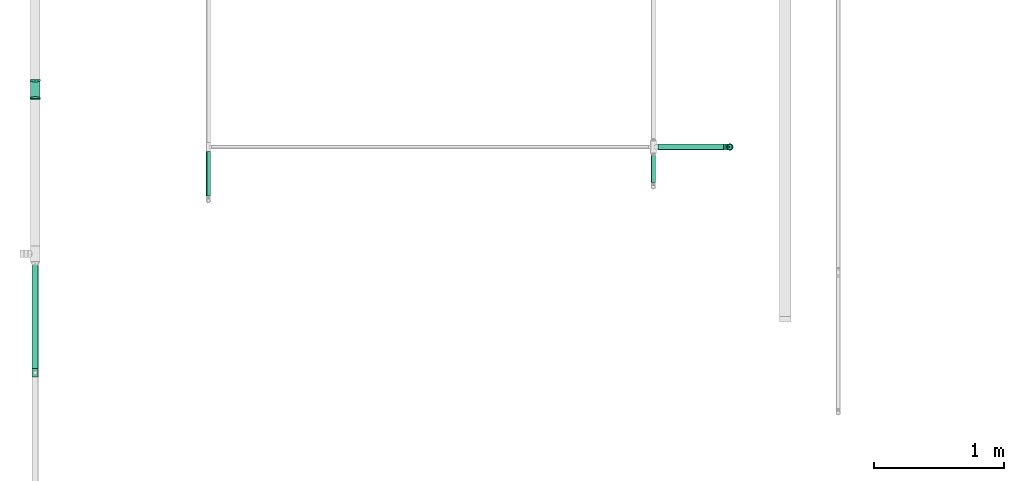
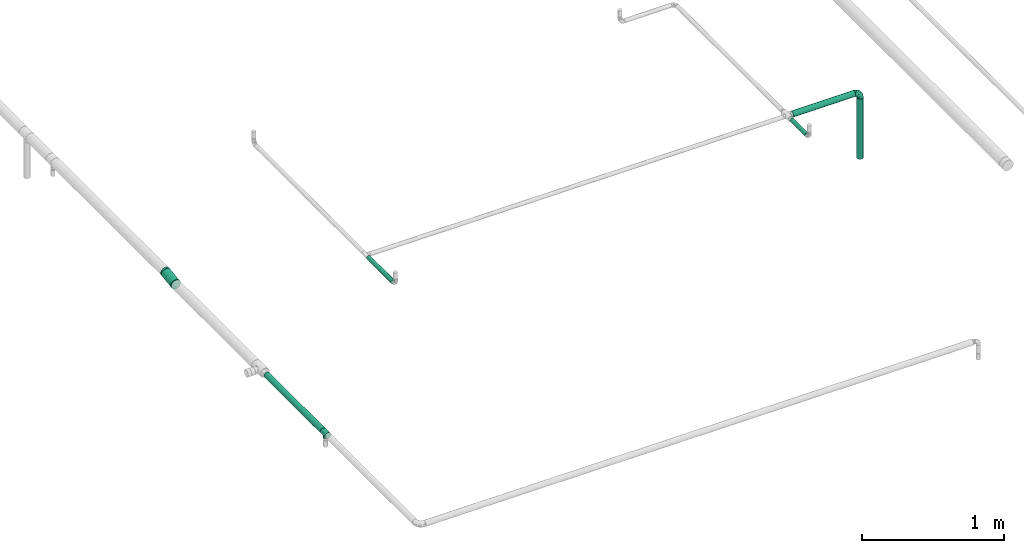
# One storey, part 2 of 32: 6 flow segments, 4 flow fittings.
"""IFC2X3 building model written with IfcOpenShell, lengths in millimetres."""

from ifc_helpers import new_model, entity, si_unit, converted_unit, derived_unit, direction, frame, origin_with_axes, origin_2d_with_axis, place, context, subcontext, project, spatial, hollow_circle, extrude, open_shell, surface_model, source, transform, mapped, type_object, element, save


model = new_model("IFC2X3")

# Units and contexts
model_context = context("Model", 3, precision=0.01, world=frame((0.0, 4.29681676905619e-09, 0.0)), true_north=direction((4.01073788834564e-13, 1.0)))
plan_context = context("Plan", 3, precision=0.01, world=frame((0.0, 4.29681676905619e-09, 0.0)), true_north=direction((4.01073788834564e-13, 1.0)))
body_context = subcontext(model_context, "Body", "Model", "MODEL_VIEW")
ifc_project = project(units=[converted_unit("PLANEANGLEUNIT", "DEGREE", entity("IfcPositiveLengthMeasure", 0.0174532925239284), si_unit("PLANEANGLEUNIT", "RADIAN"), dimensions=[0, 0, 0, 0, 0, 0, 0]), si_unit("AREAUNIT", "SQUARE_METRE"), si_unit("LENGTHUNIT", "METRE", prefix="MILLI"), si_unit("MASSUNIT", "GRAM", prefix="KILO"), si_unit("POWERUNIT", "WATT"), si_unit("PRESSUREUNIT", "PASCAL", prefix="KILO"), si_unit("FORCEUNIT", "NEWTON", prefix="KILO"), si_unit("ELECTRICVOLTAGEUNIT", "VOLT"), si_unit("ELECTRICCURRENTUNIT", "AMPERE"), si_unit("THERMODYNAMICTEMPERATUREUNIT", "DEGREE_CELSIUS"), si_unit("TIMEUNIT", "SECOND"), si_unit("VOLUMEUNIT", "CUBIC_METRE"), derived_unit("LINEARVELOCITYUNIT", [(si_unit("LENGTHUNIT", "METRE"), 1), (si_unit("TIMEUNIT", "SECOND"), -1)]), derived_unit("VOLUMETRICFLOWRATEUNIT", [(si_unit("VOLUMEUNIT", "CUBIC_METRE"), 1), (si_unit("TIMEUNIT", "SECOND"), -1)]), derived_unit("THERMALTRANSMITTANCEUNIT", [(si_unit("POWERUNIT", "WATT"), 1), (si_unit("THERMODYNAMICTEMPERATUREUNIT", "KELVIN"), -1), (si_unit("AREAUNIT", "SQUARE_METRE"), -1)]), derived_unit("SOUNDPRESSUREUNIT", [(si_unit("PRESSUREUNIT", "PASCAL"), 1)])], contexts=[model_context, plan_context])

# Site, building, storey
site_placement = place(None, frame((0.0, -4.29681676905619e-09, 0.0), z_axis=(0.0, 0.0, 1.0), x_axis=(1.0, 0.0, 0.0)))
site = spatial("IfcSite", under=ifc_project, at=site_placement, CompositionType="ELEMENT")
building_placement = place(site_placement, frame((0.0, 4.29681676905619e-09, 0.0), z_axis=(0.0, 0.0, 1.0), x_axis=(1.0, 0.0, 0.0)))
building = spatial("IfcBuilding", under=site, at=building_placement, Name="mc-building", CompositionType="ELEMENT")
storey_placement = place(building_placement, frame((0.0, 0.0, 205200.0), z_axis=(0.0, 0.0, 1.0), x_axis=(1.0, 0.0, 0.0)))
storey = spatial("IfcBuildingStorey", under=building, at=storey_placement, Name="Nivå D + 1,2 m", CompositionType="ELEMENT", Elevation=205200.0)

# Flow fittings
pipe_fitting_type_1 = type_object("IfcPipeFittingType", Name="magi_pipe_fe_tee_centric_90_001", PredefinedType="JUNCTION")
shared_shape_1 = source(origin_with_axes(), body_context, "Body", "SurfaceModel", [
    surface_model("IfcShellBasedSurfaceModel", [(-33.8, 0.0, -24.2), (-33.8, -6.26342, -23.37541), (-33.8, 6.26342, -23.37541), (-33.8, 12.1, -20.95781), (-33.8, 17.11198, -17.11198), (-33.8, 20.95781, -12.1), (-33.8, -23.37541, -6.26342), (-33.8, 23.37541, -6.26342), (-33.8, -17.11198, -17.11198), (-33.8, -20.95781, -12.1), (-33.8, -12.1, -20.95781), (-33.8, -24.2, 0.0), (-33.8, -23.37541, 6.26342), (-33.8, 20.95781, 12.1), (-33.8, 23.37541, 6.26342), (-33.8, 24.2, 0.0), (-33.8, 12.1, 20.95781), (-33.8, 17.11198, 17.11198), (-33.8, -17.11198, 17.11198), (-33.8, 6.26342, 23.37541), (-33.8, -20.95781, 12.1), (-33.8, -12.1, 20.95781), (-33.8, -6.26342, 23.37541), (-33.8, 0.0, 24.2), (33.8, 6.26342, -23.37541), (33.8, -6.26342, -23.37541), (33.8, 0.0, -24.2), (33.8, 17.11198, -17.11198), (33.8, 12.1, -20.95781), (33.8, -23.37541, -6.26342), (33.8, 20.95781, -12.1), (33.8, 23.37541, -6.26342), (33.8, -17.11198, -17.11198), (33.8, -12.1, -20.95781), (33.8, -20.95781, -12.1), (33.8, -24.2, 0.0), (33.8, 24.2, 0.0), (33.8, 23.37541, 6.26342), (33.8, 20.95781, 12.1), (33.8, -23.37541, 6.26342), (33.8, -17.11198, 17.11198), (33.8, 12.1, 20.95781), (33.8, 17.11198, 17.11198), (33.8, 6.26342, 23.37541), (33.8, -20.95781, 12.1), (33.8, -12.1, 20.95781), (33.8, 0.0, 24.2), (33.8, -6.26342, 23.37541), (15.81824, -23.45734, 5.94922), (16.9, -24.2, 0.0), (12.87025, -21.57947, 10.95293), (33.8, -19.0349, 14.60599), (8.52813, -19.30697, 14.59044), (3.03527, -17.5853, 16.6252), (-3.04044, -17.58619, 16.62425), (-8.52961, -19.30762, 14.58958), (-33.8, -19.0349, 14.60599), (-16.9, -24.2, 0.0), (-15.81885, -23.45775, 5.9476), (-12.87368, -21.58151, 10.9489), (3.03527, -17.5853, -16.6252), (33.8, -19.0349, -14.60599), (8.52813, -19.30697, -14.59044), (-8.52961, -19.30762, -14.58958), (-33.8, -19.0349, -14.60599), (12.87025, -21.57947, -10.95293), (-3.04044, -17.58619, -16.62425), (15.81824, -23.45734, -5.94922), (-12.87368, -21.58151, -10.9489), (-15.81885, -23.45775, -5.9476), (4.37404, -36.3, -16.32415), (-16.9, -36.3, 0.0), (0.0, -36.3, -16.9), (14.63583, -36.3, -8.45), (8.45, -36.3, -14.63583), (16.32415, -36.3, -4.37404), (11.9501, -36.3, -11.9501), (-11.9501, -36.3, -11.9501), (-8.45, -36.3, -14.63583), (-4.37404, -36.3, -16.32415), (-14.63583, -36.3, -8.45), (-16.32415, -36.3, -4.37404), (16.9, -36.3, 0.0), (8.45, -36.3, 14.63583), (16.32415, -36.3, 4.37404), (14.63583, -36.3, 8.45), (-8.45, -36.3, 14.63583), (11.9501, -36.3, 11.9501), (4.37404, -36.3, 16.32415), (-16.32415, -36.3, 4.37404), (-11.9501, -36.3, 11.9501), (-14.63583, -36.3, 8.45), (0.0, -36.3, 16.9), (-4.37404, -36.3, 16.32415), (-16.35943, -23.82888, 2.9738), (16.35912, -23.82867, 2.97461), (-0.00259, -17.58575, 16.62472), (16.35912, -23.82867, -2.97461), (-0.00259, -17.58575, -16.62472), (-16.35943, -23.82888, -2.9738)], [open_shell([[[0, 1, 2]], [[3, 2, 4]], [[5, 2, 6]], [[4, 2, 5]], [[7, 5, 6]], [[8, 9, 10]], [[1, 10, 9]], [[1, 9, 2]], [[9, 6, 2]], [[6, 11, 7]], [[11, 12, 7]], [[13, 14, 15]], [[13, 15, 12]], [[16, 17, 18]], [[12, 17, 13]], [[19, 16, 18]], [[20, 18, 12]], [[18, 17, 12]], [[21, 22, 18]], [[23, 18, 22]], [[18, 23, 19]], [[7, 12, 15]], [[24, 25, 26]], [[27, 24, 28]], [[29, 24, 30]], [[30, 24, 27]], [[29, 30, 31]], [[25, 32, 33]], [[32, 25, 34]], [[24, 34, 25]], [[24, 29, 34]], [[31, 35, 29]], [[31, 36, 35]], [[36, 37, 38]], [[39, 36, 38]], [[40, 38, 41]], [[41, 38, 42]], [[40, 41, 43]], [[39, 40, 44]], [[39, 38, 40]], [[45, 46, 47]], [[46, 45, 40]], [[43, 46, 40]], [[36, 39, 35]], [[35, 39, 48]], [[48, 49, 35]], [[39, 50, 48]], [[51, 40, 52]], [[52, 50, 44]], [[53, 52, 40]], [[54, 53, 21]], [[44, 50, 39]], [[55, 18, 56]], [[57, 58, 11]], [[12, 11, 58]], [[58, 59, 12]], [[55, 54, 18]], [[55, 20, 59]], [[20, 55, 56]], [[59, 20, 12]], [[18, 54, 21]], [[52, 44, 51]], [[53, 40, 45]], [[23, 47, 46]], [[22, 45, 47]], [[19, 46, 43]], [[38, 37, 14]], [[17, 41, 42]], [[13, 42, 38]], [[43, 41, 16]], [[15, 37, 36]], [[21, 45, 22]], [[22, 47, 23]], [[19, 23, 46]], [[43, 16, 19]], [[16, 41, 17]], [[13, 17, 42]], [[14, 13, 38]], [[37, 15, 14]], [[45, 21, 53]], [[5, 31, 30]], [[7, 36, 31]], [[4, 30, 27]], [[26, 25, 1]], [[2, 28, 24]], [[0, 24, 26]], [[27, 28, 3]], [[10, 25, 33]], [[15, 36, 7]], [[7, 31, 5]], [[4, 5, 30]], [[27, 3, 4]], [[3, 28, 2]], [[0, 2, 24]], [[1, 0, 26]], [[25, 10, 1]], [[33, 60, 10]], [[61, 34, 62]], [[63, 9, 64]], [[62, 60, 32]], [[34, 65, 62]], [[66, 10, 60]], [[29, 35, 67]], [[67, 65, 29]], [[49, 67, 35]], [[29, 65, 34]], [[66, 63, 8]], [[62, 32, 61]], [[64, 8, 63]], [[63, 68, 9]], [[8, 10, 66]], [[68, 69, 6]], [[69, 11, 6]], [[11, 69, 57]], [[68, 6, 9]], [[60, 33, 32]], [[70, 71, 72]], [[73, 70, 74]], [[73, 75, 70]], [[73, 74, 76]], [[71, 70, 75]], [[72, 77, 78]], [[78, 79, 72]], [[80, 71, 81]], [[77, 72, 80]], [[71, 80, 72]], [[75, 82, 71]], [[83, 82, 84]], [[83, 84, 85]], [[86, 71, 83]], [[83, 85, 87]], [[86, 83, 88]], [[89, 90, 91]], [[90, 89, 86]], [[86, 92, 93]], [[89, 71, 86]], [[88, 92, 86]], [[83, 71, 82]], [[89, 94, 71]], [[59, 91, 90]], [[89, 91, 58]], [[90, 86, 55]], [[89, 58, 94]], [[94, 57, 71]], [[58, 91, 59]], [[95, 48, 84]], [[55, 93, 54]], [[55, 59, 90]], [[92, 53, 96]], [[55, 86, 93]], [[53, 92, 88]], [[83, 52, 88]], [[87, 85, 50]], [[87, 52, 83]], [[48, 85, 84]], [[87, 50, 52]], [[52, 53, 88]], [[82, 95, 84]], [[48, 50, 85]], [[95, 82, 49]], [[92, 54, 93]], [[96, 54, 92]], [[75, 97, 82]], [[65, 73, 76]], [[75, 73, 67]], [[76, 74, 62]], [[97, 49, 82]], [[67, 73, 65]], [[62, 70, 60]], [[62, 65, 76]], [[72, 66, 98]], [[62, 74, 70]], [[99, 71, 57]], [[99, 69, 81]], [[75, 67, 97]], [[79, 66, 72]], [[69, 80, 81]], [[77, 80, 68]], [[72, 60, 70]], [[79, 63, 66]], [[63, 79, 78]], [[78, 77, 63]], [[63, 77, 68]], [[68, 80, 69]], [[71, 99, 81]], [[98, 60, 72]]])]),
])
flow_fitting_1_placement = place(storey_placement, frame((323497.5, 460733.43146, 4347.43145999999), z_axis=(1.0, 0.0, 0.0), x_axis=(0.0, 1.0, 0.0)))
element("IfcFlowFitting", 1, at=flow_fitting_1_placement, inside=storey, type_object=pipe_fitting_type_1, Name="magi_pipe_fe_tee_centric_90_001", context=body_context, shape_type="MappedRepresentation", body=[
    mapped(shared_shape_1, transform((0.0, 0.0, 0.0), scale=1.0)),
])
pipe_fitting_type_2 = type_object("IfcPipeFittingType", Name="magi_pipe_fe_elbow_short_001", PredefinedType="BEND")
shared_shape_2 = source(origin_with_axes(), body_context, "Body", "SurfaceModel", [
    surface_model("IfcShellBasedSurfaceModel", [(-48.4, 6.26342, -23.37541), (-48.4, 0.0, -24.2), (-48.4, 17.11198, -17.11198), (-48.4, 12.1, -20.95781), (-48.4, 23.37541, -6.26342), (-48.4, 20.95781, -12.1), (-48.4, -12.1, -20.95781), (-48.4, -17.11198, -17.11198), (-48.4, -20.95781, -12.1), (-48.4, -6.26342, -23.37541), (-48.4, -23.37541, -6.26342), (-48.4, -24.2, 0.0), (-48.4, -23.37541, 6.26342), (-48.4, 23.37541, 6.26342), (-48.4, 6.26342, 23.37541), (-48.4, 20.95781, 12.1), (-48.4, 17.11198, 17.11198), (-48.4, 12.1, 20.95781), (-48.4, -12.1, 20.95781), (-48.4, -20.95781, 12.1), (-48.4, -17.11198, 17.11198), (-48.4, -6.26342, 23.37541), (-48.4, 0.0, 24.2), (-48.4, 24.2, 0.0), (-17.11198, 48.4, -17.11198), (0.0, 48.4, -24.2), (-6.26342, 48.4, -23.37541), (-12.1, 48.4, -20.95781), (-20.95781, 48.4, -12.1), (-23.37541, 48.4, -6.26342), (12.1, 48.4, -20.95781), (20.95781, 48.4, -12.1), (17.11198, 48.4, -17.11198), (6.26342, 48.4, -23.37541), (23.37541, 48.4, -6.26342), (23.37541, 48.4, 6.26342), (24.2, 48.4, 0.0), (-23.37541, 48.4, 6.26342), (-6.26342, 48.4, 23.37541), (-17.11198, 48.4, 17.11198), (-20.95781, 48.4, 12.1), (-12.1, 48.4, 20.95781), (12.1, 48.4, 20.95781), (17.11198, 48.4, 17.11198), (20.95781, 48.4, 12.1), (0.0, 48.4, 24.2), (6.26342, 48.4, 23.37541), (-24.2, 48.4, 0.0), (-35.50368, -18.80076, 13.58523), (-31.77913, -13.9618, 18.03279), (-34.50859, -21.43683, 0.0), (-21.39243, -15.41147, 12.21413), (-32.16301, -21.12203, 7.54749), (21.12203, 32.16301, 7.54749), (17.07617, 18.95745, 6.20374), (18.67365, 20.61718, 0.0), (-23.65565, 38.62451, 10.51816), (-20.21592, 37.67665, 15.89859), (-35.56981, -9.15108, 21.77256), (-36.96985, -3.20584, 23.78612), (-33.88786, 3.70953, 24.15875), (-8.84062, -10.8048, 0.0), (-18.95745, -17.07617, 6.20374), (-20.61718, -18.67365, 0.0), (-18.69715, -5.87343, 20.10488), (-24.09336, -0.21717, 23.45593), (-2.08262, -4.09091, 10.90396), (-0.40561, 0.49936, 14.45569), (-8.22634, -5.79523, 14.90978), (-37.83027, 20.17367, 15.88169), (-8.41063, 23.79825, 24.15658), (-17.92529, 17.92529, 23.61199), (-14.40991, 10.5752, 24.07534), (-41.86919, 14.6551, 19.71874), (-9.03342, 41.7434, 22.66763), (-3.31671, 36.19978, 24.14056), (-38.63654, 23.65174, 10.51655), (-38.25939, 25.77657, 5.32075), (-30.0475, 30.0475, 9.04616), (-37.30448, 9.49113, 22.86036), (-6.31688, 16.20853, 23.76192), (-12.02449, 4.43954, 22.59792), (-2.47225, 13.07459, 22.23951), (-4.32281, 4.32281, 19.78555), (13.9618, 31.77913, 18.03279), (15.41147, 21.39243, 12.21413), (18.80076, 35.50367, 13.58523), (-25.72741, 16.42033, 22.38358), (-26.59277, 10.36599, 23.76692), (3.20584, 36.96985, 23.78612), (9.15107, 35.56981, 21.77256), (5.87343, 18.69715, 20.10488), (21.43683, 34.50859, 0.0), (-23.74657, 5.93004, 24.18967), (-22.40302, 25.55556, 19.88516), (-33.3245, 16.42738, 20.3789), (-25.47357, 39.04012, 5.19167), (-30.32947, 31.74105, 4.25904), (11.04589, 19.60124, 16.55181), (-27.44219, 36.3, 0.0), (-10.46605, 32.79159, 23.04712), (-13.80953, 25.05111, 23.26361), (-17.54489, 31.27863, 20.33941), (-19.27982, 23.42922, 22.01925), (-14.78447, 40.57947, 19.81913), (-19.60124, -11.04589, 16.55181), (-25.09785, 32.07921, 13.69695), (-25.5093, 27.02629, 17.14196), (-31.08127, 26.00324, 13.49448), (0.21717, 24.09336, 23.45593), (5.51075, 8.40547, 15.32867), (-11.48597, -10.80284, 11.35932), (1.43689, -3.14326, 6.54995), (7.34882, 4.31024, 8.4514), (7.50574, 2.51208, 3.62663), (12.46453, 10.09451, 5.71609), (12.1504, 12.55391, 10.15678), (-36.3, 27.44219, 0.0), (-6.52237, -9.62364, 7.02633), (2.93595, -2.93595, 0.0), (10.8048, 8.84062, 0.0), (-19.60124, -11.04589, -16.55181), (-31.77913, -13.9618, -18.03279), (-18.69715, -5.87343, -20.10488), (-21.39243, -15.41147, -12.21413), (-37.67665, 20.21591, -15.89859), (-40.57947, 14.78447, -19.81913), (-39.04012, 25.47357, -5.19167), (-32.16301, -21.12203, -7.54749), (-30.0475, 30.0475, -9.04616), (-38.62452, 23.65565, -10.51816), (-18.95745, -17.07617, -6.20374), (-23.42922, 19.27982, -22.01926), (-25.05111, 13.80953, -23.26361), (-31.27863, 17.54489, -20.33941), (-14.6551, 41.86919, -19.71874), (-20.17367, 37.83026, -15.88169), (9.15108, 35.56981, -21.77256), (5.87343, 18.69715, -20.10488), (0.21717, 24.09336, -23.45593), (-41.7434, 9.03342, -22.66763), (-35.50368, -18.80076, -13.58523), (-35.56981, -9.15108, -21.77256), (-16.42033, 25.72741, -22.38358), (-9.49113, 37.30447, -22.86036), (-10.36599, 26.59277, -23.76692), (-36.96985, -3.20584, -23.78612), (-23.79826, 8.41063, -24.15658), (-17.92529, 17.92529, -23.61199), (-10.5752, 14.40991, -24.07534), (-36.19978, 3.31671, -24.14056), (-25.77657, 38.25939, -5.32075), (-23.65174, 38.63654, -10.51655), (-32.79159, 10.46605, -23.04712), (-31.74105, 30.32946, -4.25904), (-5.93004, 23.74657, -24.18967), (-25.55556, 22.40302, -19.88516), (-16.42738, 33.3245, -20.3789), (3.20584, 36.96985, -23.78612), (-3.70953, 33.88785, -24.15875), (18.80076, 35.50367, -13.58523), (13.9618, 31.77913, -18.03279), (7.50574, 2.51208, -3.62663), (12.46453, 10.09451, -5.71609), (-16.20853, 6.31688, -23.76192), (-4.43954, 12.02449, -22.59792), (-13.07459, 2.47225, -22.23951), (1.43689, -3.14326, -6.54995), (-6.52237, -9.62364, -7.02632), (-2.08262, -4.09091, -10.90396), (15.41147, 21.39243, -12.21413), (21.12203, 32.16301, -7.54749), (17.07617, 18.95745, -6.20374), (-32.07921, 25.09785, -13.69695), (11.04589, 19.60124, -16.55181), (12.1504, 12.55391, -10.15678), (5.51075, 8.40547, -15.32867), (-27.02629, 25.5093, -17.14196), (-26.00324, 31.08127, -13.49448), (-24.09336, -0.21717, -23.45593), (-4.32281, 4.32281, -19.78555), (-8.22634, -5.79524, -14.90978), (-11.48597, -10.80284, -11.35931), (-0.40561, 0.49936, -14.45569), (7.34882, 4.31024, -8.4514)], [open_shell([[[0, 1, 2]], [[3, 0, 2]], [[4, 5, 2]], [[6, 2, 1]], [[4, 2, 6]], [[7, 8, 6]], [[1, 9, 6]], [[8, 10, 6]], [[6, 10, 4]], [[11, 12, 10]], [[13, 4, 10]], [[14, 13, 10]], [[15, 13, 16]], [[13, 14, 17]], [[16, 13, 17]], [[10, 18, 14]], [[19, 20, 12]], [[20, 10, 12]], [[21, 22, 18]], [[20, 18, 10]], [[18, 22, 14]], [[23, 4, 13]], [[24, 25, 26]], [[24, 26, 27]], [[24, 28, 29]], [[25, 24, 30]], [[30, 24, 29]], [[30, 31, 32]], [[30, 33, 25]], [[30, 34, 31]], [[29, 34, 30]], [[34, 35, 36]], [[34, 29, 37]], [[34, 37, 38]], [[39, 37, 40]], [[41, 38, 37]], [[41, 37, 39]], [[38, 42, 34]], [[35, 43, 44]], [[35, 34, 43]], [[42, 45, 46]], [[34, 42, 43]], [[38, 45, 42]], [[37, 29, 47]], [[20, 48, 49]], [[12, 11, 50]], [[51, 48, 52]], [[53, 54, 55]], [[48, 20, 19]], [[12, 52, 19]], [[40, 56, 57]], [[49, 18, 20]], [[49, 58, 18]], [[22, 59, 60]], [[61, 62, 63]], [[58, 64, 65]], [[66, 67, 68]], [[15, 16, 69]], [[70, 71, 72]], [[17, 73, 16]], [[21, 59, 22]], [[38, 74, 75]], [[22, 60, 14]], [[15, 69, 76]], [[16, 73, 69]], [[23, 13, 77]], [[13, 15, 76]], [[77, 76, 78]], [[14, 79, 17]], [[80, 81, 82]], [[68, 83, 64]], [[84, 43, 42]], [[85, 86, 84]], [[87, 79, 88]], [[18, 58, 21]], [[45, 89, 46]], [[53, 35, 44]], [[45, 38, 75]], [[84, 90, 91]], [[44, 86, 53]], [[92, 35, 53]], [[86, 44, 43]], [[90, 42, 46]], [[53, 55, 92]], [[88, 93, 72]], [[54, 53, 85]], [[87, 94, 95]], [[78, 96, 97]], [[98, 84, 91]], [[99, 96, 47]], [[79, 14, 60]], [[96, 78, 56]], [[62, 52, 63]], [[57, 39, 40]], [[100, 70, 75]], [[101, 102, 103]], [[12, 50, 52]], [[104, 41, 39]], [[74, 38, 41]], [[57, 102, 104]], [[105, 64, 49]], [[90, 84, 42]], [[40, 37, 56]], [[56, 106, 57]], [[102, 57, 107]], [[95, 107, 69]], [[76, 108, 78]], [[100, 101, 70]], [[89, 75, 109]], [[64, 58, 49]], [[63, 52, 50]], [[59, 58, 65]], [[105, 49, 51]], [[64, 83, 81]], [[89, 90, 46]], [[36, 35, 92]], [[109, 82, 91]], [[109, 91, 90]], [[91, 83, 110]], [[111, 68, 105]], [[66, 68, 111]], [[62, 51, 52]], [[66, 112, 113]], [[114, 115, 113]], [[98, 85, 84]], [[52, 48, 19]], [[49, 48, 51]], [[84, 86, 43]], [[53, 86, 85]], [[88, 79, 60]], [[73, 79, 95]], [[96, 56, 37]], [[78, 108, 106]], [[87, 103, 94]], [[100, 74, 104]], [[108, 69, 107]], [[78, 97, 77]], [[88, 72, 71]], [[109, 75, 70]], [[81, 72, 65]], [[70, 72, 80]], [[75, 89, 45]], [[90, 89, 109]], [[58, 59, 21]], [[60, 59, 65]], [[67, 83, 68]], [[110, 113, 116]], [[88, 60, 93]], [[87, 88, 71]], [[103, 87, 71]], [[79, 87, 95]], [[101, 103, 71]], [[94, 103, 102]], [[47, 96, 37]], [[96, 99, 97]], [[99, 117, 97]], [[97, 117, 77]], [[23, 77, 117]], [[13, 76, 77]], [[60, 65, 93]], [[65, 72, 93]], [[70, 101, 71]], [[102, 101, 100]], [[69, 108, 76]], [[106, 108, 107]], [[57, 106, 107]], [[78, 106, 56]], [[57, 104, 39]], [[100, 104, 102]], [[102, 107, 94]], [[95, 94, 107]], [[64, 81, 65]], [[82, 81, 83]], [[91, 82, 83]], [[80, 82, 109]], [[70, 80, 109]], [[81, 80, 72]], [[79, 73, 17]], [[69, 73, 95]], [[104, 74, 41]], [[75, 74, 100]], [[62, 61, 118]], [[111, 62, 118]], [[113, 115, 116]], [[119, 118, 61]], [[111, 105, 51]], [[113, 112, 114]], [[120, 55, 54]], [[68, 64, 105]], [[91, 110, 98]], [[116, 98, 110]], [[62, 111, 51]], [[66, 111, 118]], [[112, 66, 118]], [[67, 113, 110]], [[118, 119, 112]], [[114, 112, 119]], [[119, 120, 114]], [[115, 120, 54]], [[120, 115, 114]], [[116, 54, 85]], [[54, 116, 115]], [[116, 85, 98]], [[113, 67, 66]], [[83, 67, 110]], [[121, 122, 123]], [[122, 121, 124]], [[5, 125, 2]], [[2, 126, 3]], [[117, 127, 23]], [[50, 10, 128]], [[127, 129, 130]], [[128, 131, 63]], [[132, 133, 134]], [[24, 135, 136]], [[137, 138, 139]], [[3, 140, 0]], [[128, 8, 141]], [[142, 6, 9]], [[128, 63, 50]], [[5, 4, 130]], [[8, 7, 141]], [[143, 144, 145]], [[146, 9, 1]], [[147, 148, 149]], [[8, 128, 10]], [[124, 141, 122]], [[150, 1, 0]], [[151, 152, 129]], [[125, 134, 126]], [[153, 147, 150]], [[127, 154, 129]], [[145, 155, 149]], [[47, 29, 151]], [[143, 156, 157]], [[152, 29, 28]], [[25, 158, 159]], [[122, 7, 6]], [[24, 27, 135]], [[144, 27, 26]], [[32, 160, 161]], [[25, 33, 158]], [[120, 162, 163]], [[130, 125, 5]], [[24, 136, 28]], [[0, 140, 150]], [[30, 161, 137]], [[142, 122, 6]], [[25, 159, 26]], [[164, 165, 166]], [[167, 168, 169]], [[31, 160, 32]], [[161, 30, 32]], [[170, 160, 171]], [[131, 128, 124]], [[36, 92, 34]], [[34, 92, 171]], [[172, 171, 55]], [[34, 171, 31]], [[144, 26, 159]], [[130, 173, 125]], [[174, 175, 176]], [[136, 152, 28]], [[30, 137, 33]], [[122, 142, 123]], [[134, 125, 177]], [[157, 177, 136]], [[152, 178, 129]], [[153, 133, 147]], [[146, 150, 179]], [[146, 142, 9]], [[11, 10, 50]], [[179, 166, 123]], [[179, 123, 142]], [[123, 180, 181]], [[138, 137, 161]], [[55, 171, 92]], [[158, 137, 139]], [[174, 161, 170]], [[138, 180, 165]], [[180, 138, 176]], [[124, 121, 182]], [[176, 183, 180]], [[61, 131, 168]], [[169, 168, 182]], [[172, 170, 171]], [[122, 141, 7]], [[128, 141, 124]], [[171, 160, 31]], [[161, 160, 170]], [[145, 144, 159]], [[135, 144, 157]], [[127, 130, 4]], [[129, 178, 173]], [[143, 132, 156]], [[153, 140, 126]], [[178, 136, 177]], [[129, 154, 151]], [[145, 149, 148]], [[179, 150, 147]], [[165, 149, 139]], [[147, 149, 164]], [[150, 146, 1]], [[142, 146, 179]], [[137, 158, 33]], [[159, 158, 139]], [[174, 138, 161]], [[184, 169, 183]], [[145, 159, 155]], [[143, 145, 148]], [[132, 143, 148]], [[144, 143, 157]], [[133, 132, 148]], [[156, 132, 134]], [[23, 127, 4]], [[127, 117, 154]], [[117, 99, 154]], [[154, 99, 151]], [[47, 151, 99]], [[29, 152, 151]], [[159, 139, 155]], [[139, 149, 155]], [[147, 133, 148]], [[134, 133, 153]], [[136, 178, 152]], [[173, 178, 177]], [[125, 173, 177]], [[129, 173, 130]], [[125, 126, 2]], [[153, 126, 134]], [[134, 177, 156]], [[157, 156, 177]], [[138, 165, 139]], [[166, 165, 180]], [[123, 166, 180]], [[164, 166, 179]], [[147, 164, 179]], [[165, 164, 149]], [[144, 135, 27]], [[136, 135, 157]], [[126, 140, 3]], [[150, 140, 153]], [[182, 131, 124]], [[168, 119, 61]], [[119, 167, 162]], [[63, 131, 61]], [[172, 163, 175]], [[172, 55, 120]], [[123, 181, 121]], [[182, 121, 181]], [[175, 174, 170]], [[176, 138, 174]], [[169, 182, 181]], [[131, 182, 168]], [[183, 169, 181]], [[167, 169, 184]], [[162, 167, 184]], [[119, 168, 167]], [[163, 162, 184]], [[120, 119, 162]], [[175, 163, 184]], [[120, 163, 172]], [[176, 175, 184]], [[172, 175, 170]], [[180, 183, 181]], [[184, 183, 176]]])]),
])
flow_fitting_2_placement = place(storey_placement, frame((328861.66407, 462475.84044, 4357.43145999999), z_axis=(0.0, -1.0, 0.0), x_axis=(0.0, 0.0, 1.0)))
element("IfcFlowFitting", 2, at=flow_fitting_2_placement, inside=storey, type_object=pipe_fitting_type_2, Name="magi_pipe_fe_elbow_short_001", context=body_context, shape_type="MappedRepresentation", body=[
    mapped(shared_shape_2, transform((0.0, 0.0, 0.0), scale=1.0)),
])
shared_shape_3 = source(origin_with_axes(), body_context, "Body", "SurfaceModel", [
    surface_model("IfcShellBasedSurfaceModel", [(-5.41537, 19.05, -32.99557), (-5.41537, 9.86101, -36.80177), (-5.41537, 0.0, -38.1), (-5.41537, 26.94077, -26.94077), (-5.41537, 36.80177, -9.86101), (-5.41537, 32.99557, -19.05), (-5.41537, -36.80177, 9.86101), (-5.41537, -9.86101, -36.80177), (-5.41537, -26.94077, -26.94077), (-5.41537, -32.99557, -19.05), (-5.41537, -19.05, -32.99557), (-5.41537, -36.80177, -9.86101), (-5.41537, -38.1, 0.0), (-5.41537, 36.80177, 9.86101), (-5.41537, 26.94077, 26.94077), (-5.41537, 32.99557, 19.05), (-5.41537, 9.86101, 36.80177), (-5.41537, 19.05, 32.99557), (-5.41537, -19.05, 32.99557), (-5.41537, 0.0, 38.1), (-5.41537, -32.99557, 19.05), (-5.41537, -26.94077, 26.94077), (-5.41537, -9.86101, 36.80177), (-5.41537, 38.1, 0.0), (5.36094, 0.76585, -38.1), (3.96638, 10.52775, -36.80177), (2.66686, 19.62439, -32.99557), (0.69466, 33.4298, -19.05), (8.05502, -18.09269, -32.99557), (1.55094, 27.43585, -26.94077), (10.5655, -35.66605, 9.86101), (10.02722, -31.8981, -19.05), (9.17094, -25.90415, -26.94077), (6.7555, -8.99605, -36.80177), (10.5655, -35.66605, -9.86101), (10.74909, -36.95123, 0.0), (0.15638, 37.19775, -9.86101), (3.96638, 10.52775, 36.80177), (-0.02721, 38.48293, 0.0), (0.15638, 37.19775, 9.86101), (1.55094, 27.43585, 26.94077), (0.69466, 33.4298, 19.05), (2.66686, 19.62439, 32.99557), (5.36094, 0.76585, 38.1), (9.17094, -25.90415, 26.94077), (10.02722, -31.8981, 19.05), (8.05502, -18.09269, 32.99557), (6.7555, -8.99605, 36.80177), (-2.7145, 38.19585, 0.0), (2.68725, -37.81244, 0.0)], [open_shell([[[0, 1, 2]], [[3, 0, 2]], [[4, 5, 3]], [[6, 3, 2]], [[6, 2, 7]], [[8, 9, 10]], [[10, 9, 6]], [[11, 12, 9]], [[9, 12, 6]], [[10, 6, 7]], [[3, 6, 4]], [[13, 4, 14]], [[15, 13, 14]], [[16, 17, 14]], [[18, 14, 4]], [[16, 14, 19]], [[20, 21, 6]], [[6, 21, 4]], [[22, 19, 18]], [[18, 4, 21]], [[14, 18, 19]], [[23, 4, 13]], [[24, 25, 26]], [[24, 26, 27]], [[24, 27, 28]], [[27, 26, 29]], [[27, 30, 28]], [[28, 31, 32]], [[28, 33, 24]], [[31, 30, 34]], [[35, 34, 30]], [[30, 31, 28]], [[27, 36, 30]], [[37, 38, 39]], [[40, 39, 41]], [[40, 42, 37]], [[40, 37, 39]], [[38, 37, 43]], [[30, 44, 45]], [[36, 44, 30]], [[46, 43, 47]], [[43, 46, 44]], [[38, 43, 44]], [[44, 36, 38]], [[44, 18, 21]], [[21, 20, 45]], [[43, 19, 22]], [[19, 43, 16]], [[22, 18, 46]], [[30, 20, 6]], [[15, 14, 41]], [[17, 40, 14]], [[48, 13, 39]], [[48, 23, 13]], [[39, 13, 15]], [[42, 17, 16]], [[6, 12, 49]], [[46, 47, 22]], [[18, 44, 46]], [[47, 43, 22]], [[20, 30, 45]], [[21, 45, 44]], [[30, 49, 35]], [[41, 39, 15]], [[38, 48, 39]], [[42, 16, 37]], [[17, 42, 40]], [[41, 14, 40]], [[37, 16, 43]], [[6, 49, 30]], [[7, 2, 24]], [[2, 1, 24]], [[27, 3, 5]], [[0, 3, 29]], [[0, 26, 1]], [[4, 36, 5]], [[49, 12, 11]], [[34, 49, 11]], [[32, 8, 10]], [[11, 9, 34]], [[8, 31, 9]], [[28, 10, 7]], [[4, 23, 48]], [[48, 38, 36]], [[36, 27, 5]], [[0, 29, 26]], [[1, 26, 25]], [[3, 27, 29]], [[25, 24, 1]], [[28, 7, 33]], [[32, 10, 28]], [[9, 31, 34]], [[34, 35, 49]], [[31, 8, 32]], [[24, 33, 7]], [[4, 48, 36]]])]),
])
for number, where, z_axis, x_axis, name in (
    (3, (323497.5, 462991.39192, 4367.43145999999), (1.0, 0.0, 0.0), (0.0, -1.0, 0.0), "magi_pipe_fe_elbow_short_001"),
    (4, (323497.5, 462851.39192, 4347.43145999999), (1.0, 0.0, 0.0), (0.0, 1.0, 0.0), "magi_pipe_fe_elbow_short_001"),
):
    element("IfcFlowFitting", number, at=place(storey_placement, frame(where, z_axis=z_axis, x_axis=x_axis)), inside=storey, type_object=pipe_fitting_type_2, Name=name, context=body_context, shape_type="MappedRepresentation", body=[
        mapped(shared_shape_3, transform((0.0, 0.0, 0.0), scale=1.0)),
    ])

# Flow segments
pipe_segment_type = type_object("IfcPipeSegmentType", Name="Stålrør normaltykke", PredefinedType="RIGIDSEGMENT")
shared_shape_4 = source(origin_with_axes(), body_context, "Body", "SweptSolid", [
    extrude(hollow_circle(Radius=24.1, WallThickness=2.0, at=origin_2d_with_axis()), frame((0.0, 0.0, 0.0), z_axis=(1.0, 0.0, 0.0), x_axis=(0.0, 1.0, 0.0)), (0.0, 0.0, 1.0), 795.6),
])
flow_segment_1_placement = place(storey_placement, frame((323497.5, 461562.79192, 4347.43145999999), z_axis=(0.0, 0.0, 1.0), x_axis=(0.0, -1.0, 0.0)))
element("IfcFlowSegment", 5, at=flow_segment_1_placement, inside=storey, type_object=pipe_segment_type, Name="Stålrør normaltykke", context=body_context, shape_type="MappedRepresentation", body=[
    mapped(shared_shape_4, transform((0.0, 0.0, 0.0), scale=1.0)),
])
shared_shape_5 = source(origin_with_axes(), body_context, "Body", "SweptSolid", [
    extrude(hollow_circle(Radius=38.0, WallThickness=2.0, at=origin_2d_with_axis()), frame((0.0, 0.0, 0.0), z_axis=(1.0, 0.0, 0.0), x_axis=(0.0, 1.0, 0.0)), (0.0, 0.0, 1.0), 130.6),
])
flow_segment_2_placement = place(storey_placement, frame((323497.5, 462986.03098, 4366.66561), z_axis=(0.0, -0.141421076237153, 0.989949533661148), x_axis=(0.0, -0.989949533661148, -0.141421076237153)))
element("IfcFlowSegment", 6, at=flow_segment_2_placement, inside=storey, type_object=pipe_segment_type, Name="Stålrør normaltykke", context=body_context, shape_type="MappedRepresentation", body=[
    mapped(shared_shape_5, transform((0.0, 0.0, 0.0), scale=1.0)),
])
shared_shape_6 = source(origin_with_axes(), body_context, "Body", "SweptSolid", [
    extrude(hollow_circle(Radius=16.9, WallThickness=2.0, at=origin_2d_with_axis()), frame((0.0, 0.0, 0.0), z_axis=(1.0, 0.0, 0.0), x_axis=(0.0, 1.0, 0.0)), (0.0, 0.0, 1.0), 212.1),
])
flow_segment_3_placement = place(storey_placement, frame((328269.97595, 462200.7875, 4357.43145999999), z_axis=(0.0, 0.0, 1.0), x_axis=(0.0, 1.0, 0.0)))
element("IfcFlowSegment", 7, at=flow_segment_3_placement, inside=storey, type_object=pipe_segment_type, Name="Stålrør normaltykke", context=body_context, shape_type="MappedRepresentation", body=[
    mapped(shared_shape_6, transform((0.0, 0.0, 0.0), scale=1.0)),
])
shared_shape_7 = source(origin_with_axes(), body_context, "Body", "SweptSolid", [
    extrude(hollow_circle(Radius=16.9, WallThickness=2.0, at=origin_2d_with_axis()), frame((0.0, 0.0, 0.0), z_axis=(1.0, 0.0, 0.0), x_axis=(0.0, 1.0, 0.0)), (0.0, 0.0, 1.0), 346.3),
])
flow_segment_4_placement = place(storey_placement, frame((324834.97595, 462095.7875, 4357.43145999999), z_axis=(0.0, 0.0, 1.0), x_axis=(0.0, 1.0, 0.0)))
element("IfcFlowSegment", 8, at=flow_segment_4_placement, inside=storey, type_object=pipe_segment_type, Name="Stålrør normaltykke", context=body_context, shape_type="MappedRepresentation", body=[
    mapped(shared_shape_7, transform((0.0, 0.0, 0.0), scale=1.0)),
])
shared_shape_8 = source(origin_with_axes(), body_context, "Body", "SweptSolid", [
    extrude(hollow_circle(Radius=24.1, WallThickness=2.0, at=origin_2d_with_axis()), frame((0.0, 0.0, 0.0), z_axis=(1.0, 0.0, 0.0), x_axis=(0.0, 1.0, 0.0)), (0.0, 0.0, 1.0), 507.0),
])
flow_segment_5_placement = place(storey_placement, frame((328306.27595, 462475.84044, 4357.43145999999), z_axis=(0.0, 0.0, 1.0), x_axis=(1.0, 0.0, 0.0)))
element("IfcFlowSegment", 9, at=flow_segment_5_placement, inside=storey, type_object=pipe_segment_type, Name="Stålrør normaltykke", context=body_context, shape_type="MappedRepresentation", body=[
    mapped(shared_shape_8, transform((0.0, 0.0, 0.0), scale=1.0)),
])
shared_shape_9 = source(origin_with_axes(), body_context, "Body", "SweptSolid", [
    extrude(hollow_circle(Radius=24.1, WallThickness=2.0, at=origin_2d_with_axis()), frame((0.0, 0.0, 0.0), z_axis=(1.0, 0.0, 0.0), x_axis=(0.0, 1.0, 0.0)), (0.0, 0.0, 1.0), 518.9),
])
flow_segment_6_placement = place(storey_placement, frame((328861.66407, 462475.84044, 3790.09917999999), z_axis=(1.0, 0.0, 0.0), x_axis=(0.0, 0.0, 1.0)))
element("IfcFlowSegment", 10, at=flow_segment_6_placement, inside=storey, type_object=pipe_segment_type, Name="Stålrør normaltykke", context=body_context, shape_type="MappedRepresentation", body=[
    mapped(shared_shape_9, transform((0.0, 0.0, 0.0), scale=1.0)),
])

save(model, "model.ifc")
